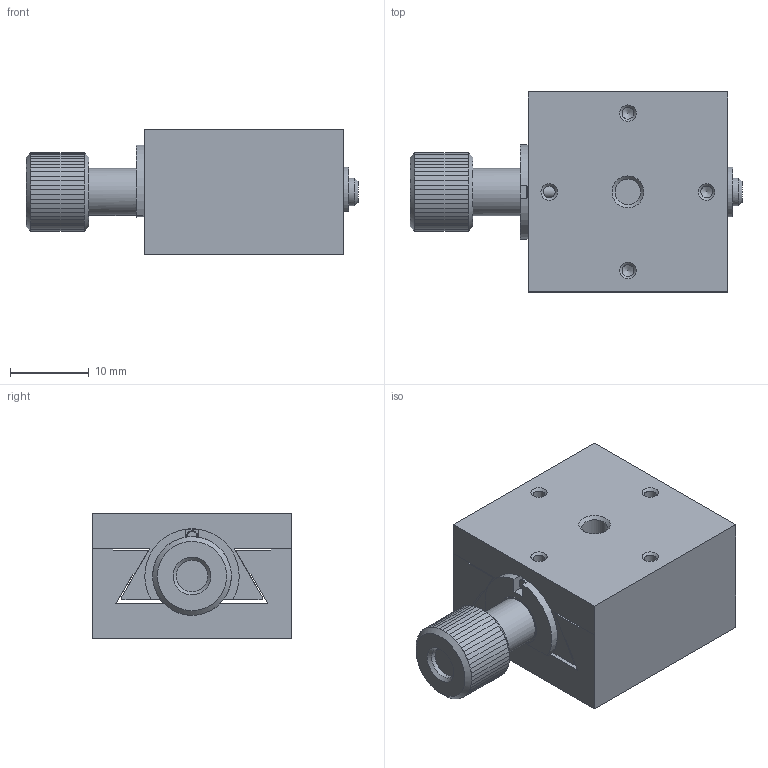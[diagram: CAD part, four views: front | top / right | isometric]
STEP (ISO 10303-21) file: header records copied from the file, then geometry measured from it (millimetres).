
FILE_DESCRIPTION(/* description */ (''),/* implementation_level */ '2;1');
FILE_NAME(/* name */ 'C:\Users\dsgn39\Desktop\Internetui\7T25-10\7T25-10.stp',/* time_stamp */ '2017-03-16T17:12:05+02:00',/* author */ ('dsgn39'),/* organization */ (''),/* preprocessor_version */ 'ST-DEVELOPER v15.2',/* originating_system */ 'Autodesk Inventor 2014',/* authorisation */ '');
FILE_SCHEMA (('AUTOMOTIVE_DESIGN { 1 0 10303 214 3 1 1 }'));
Length unit declared in the file: millimetre
Products named in the file (2): Part8; Assembly4
Bounding box: 42.2 x 25.4 x 16 mm (x, y, z)
Volume: 10739.7 mm3; surface area: 5645.2 mm2
Topology: 1 solids, 5 shells, 311 faces, 664 edges, 357 vertices
Faces by surface type: plane 234, cylinder 48, cone 28, torus 1
Full cylindrical faces by diameter (mm): 1.5 x7, 2.459 x1, 3.242 x2, 3.459 x1, 3.5 x1, 4 x1, 5.5 x2, 6 x2, 6.4 x2
Entity records: 7801 total; most frequent: DIRECTION 1459, CARTESIAN_POINT 1298, ORIENTED_EDGE 1198, EDGE_CURVE 598, AXIS2_PLACEMENT_3D 554, EDGE_LOOP 374, LINE 351, VECTOR 351
